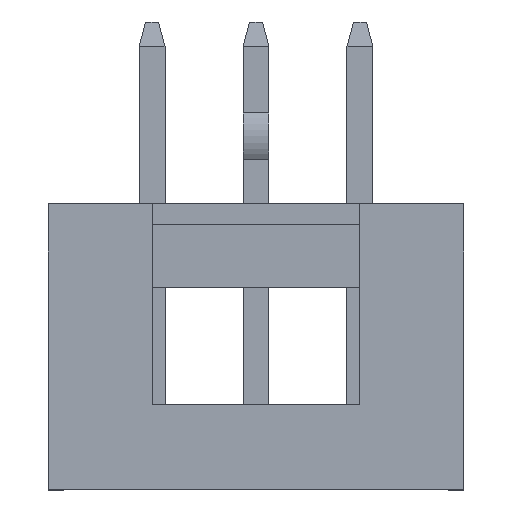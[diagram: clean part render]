
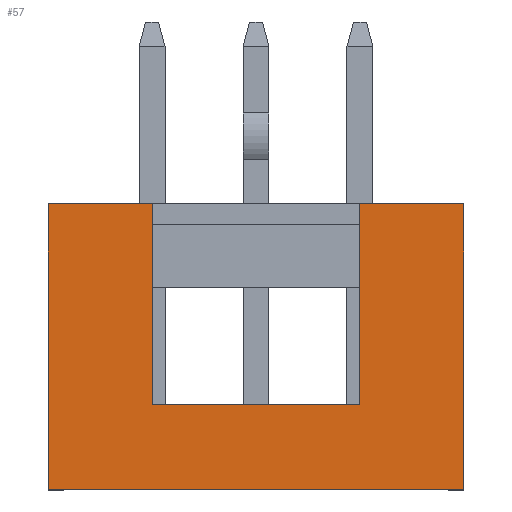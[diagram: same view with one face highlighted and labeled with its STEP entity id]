
A CAD part, top view. The second image highlights one B-rep face of the part: STEP entity #57.
In plain terms, the highlighted planar face has unit normal (0, 0, 1).
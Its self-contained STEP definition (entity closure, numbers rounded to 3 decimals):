
#57=ADVANCED_FACE('',(#250),#156,.F.);
#156=PLANE('',#1844);
#250=FACE_OUTER_BOUND('',#355,.T.);
#355=EDGE_LOOP('',(#516,#517,#518,#519,#520,#521,#522,#523));
#516=ORIENTED_EDGE('',*,*,#1167,.F.);
#517=ORIENTED_EDGE('',*,*,#1128,.F.);
#518=ORIENTED_EDGE('',*,*,#1168,.T.);
#519=ORIENTED_EDGE('',*,*,#1169,.T.);
#520=ORIENTED_EDGE('',*,*,#1170,.F.);
#521=ORIENTED_EDGE('',*,*,#1124,.F.);
#522=ORIENTED_EDGE('',*,*,#1171,.T.);
#523=ORIENTED_EDGE('',*,*,#1172,.T.);
#965=VERTEX_POINT('',#2442);
#967=VERTEX_POINT('',#2446);
#968=VERTEX_POINT('',#2448);
#971=VERTEX_POINT('',#2454);
#1008=VERTEX_POINT('',#2533);
#1009=VERTEX_POINT('',#2535);
#1010=VERTEX_POINT('',#2537);
#1011=VERTEX_POINT('',#2540);
#1124=EDGE_CURVE('',#967,#968,#1373,.T.);
#1128=EDGE_CURVE('',#971,#965,#1377,.T.);
#1167=EDGE_CURVE('',#965,#1008,#1416,.T.);
#1168=EDGE_CURVE('',#971,#1009,#1417,.T.);
#1169=EDGE_CURVE('',#1009,#1010,#1418,.T.);
#1170=EDGE_CURVE('',#968,#1010,#1419,.T.);
#1171=EDGE_CURVE('',#967,#1011,#1420,.T.);
#1172=EDGE_CURVE('',#1011,#1008,#1421,.T.);
#1373=LINE('',#2447,#1616);
#1377=LINE('',#2455,#1620);
#1416=LINE('',#2532,#1659);
#1417=LINE('',#2534,#1660);
#1418=LINE('',#2536,#1661);
#1419=LINE('',#2538,#1662);
#1420=LINE('',#2539,#1663);
#1421=LINE('',#2541,#1664);
#1616=VECTOR('',#1975,1.);
#1620=VECTOR('',#1979,1.);
#1659=VECTOR('',#2022,1.);
#1660=VECTOR('',#2023,1.);
#1661=VECTOR('',#2024,1.);
#1662=VECTOR('',#2025,1.);
#1663=VECTOR('',#2026,1.);
#1664=VECTOR('',#2027,1.);
#1844=AXIS2_PLACEMENT_3D('',#2542,#2028,#2029);
#1975=DIRECTION('',(1.,0.,0.));
#1979=DIRECTION('',(1.,0.,0.));
#2022=DIRECTION('',(0.,-1.,0.));
#2023=DIRECTION('',(0.,-1.,0.));
#2024=DIRECTION('',(1.,0.,0.));
#2025=DIRECTION('',(0.,-1.,0.));
#2026=DIRECTION('',(0.,-1.,0.));
#2027=DIRECTION('',(-1.,0.,0.));
#2028=DIRECTION('',(0.,0.,-1.));
#2029=DIRECTION('',(-1.,0.,0.));
#2442=CARTESIAN_POINT('',(-2.,7.3,4.05));
#2446=CARTESIAN_POINT('',(2.,7.3,4.05));
#2447=CARTESIAN_POINT('',(4.,7.3,4.05));
#2448=CARTESIAN_POINT('',(4.,7.3,4.05));
#2454=CARTESIAN_POINT('',(-4.,7.3,4.05));
#2455=CARTESIAN_POINT('',(4.,7.3,4.05));
#2532=CARTESIAN_POINT('',(-2.,7.3,4.05));
#2533=CARTESIAN_POINT('',(-2.,3.45,4.05));
#2534=CARTESIAN_POINT('',(-4.,1.8,4.05));
#2535=CARTESIAN_POINT('',(-4.,1.8,4.05));
#2536=CARTESIAN_POINT('',(4.,1.8,4.05));
#2537=CARTESIAN_POINT('',(4.,1.8,4.05));
#2538=CARTESIAN_POINT('',(4.,1.8,4.05));
#2539=CARTESIAN_POINT('',(2.,7.3,4.05));
#2540=CARTESIAN_POINT('',(2.,3.45,4.05));
#2541=CARTESIAN_POINT('',(2.,3.45,4.05));
#2542=CARTESIAN_POINT('',(4.,1.8,4.05));
